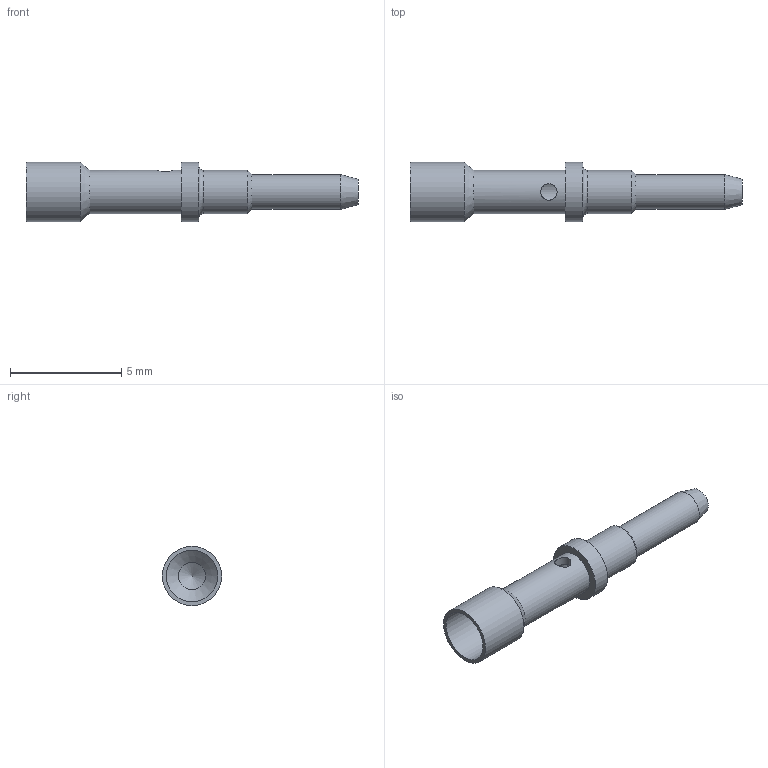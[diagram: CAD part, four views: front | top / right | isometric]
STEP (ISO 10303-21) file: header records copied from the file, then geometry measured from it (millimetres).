
FILE_DESCRIPTION(/* description */ (''),/* implementation_level */ '2;1');
FILE_NAME(/* name */ 'Z:\STEP folder\460336801.ipt.stp',/* time_stamp */ '2016-12-21T13:06:42+00:00',/* author */ ('Paul Karlsons'),/* organization */ (''),/* preprocessor_version */ 'ST-DEVELOPER v15.2',/* originating_system */ 'Autodesk Inventor 2014',/* authorisation */ '');
FILE_SCHEMA (('AUTOMOTIVE_DESIGN { 1 0 10303 214 3 1 1 }'));
Length unit declared in the file: millimetre
Products named in the file (1): 460336801
Bounding box: 14.93 x 2.67 x 2.67 mm (x, y, z)
Volume: 32.8 mm3; surface area: 139.8 mm2
Topology: 1 solids, 1 shells, 18 faces, 35 edges, 21 vertices
Faces by surface type: cylinder 8, cone 5, plane 4, torus 1
Full cylindrical faces by diameter (mm): 0.737 x1, 1.245 x1, 1.574 x1, 1.956 x2, 2.337 x1, 2.667 x1, 2.668 x1
Entity records: 449 total; most frequent: CARTESIAN_POINT 121, DIRECTION 70, EDGE_LOOP 36, ORIENTED_EDGE 36, AXIS2_PLACEMENT_3D 35, FACE_BOUND 21, VERTEX_POINT 18, EDGE_CURVE 18
